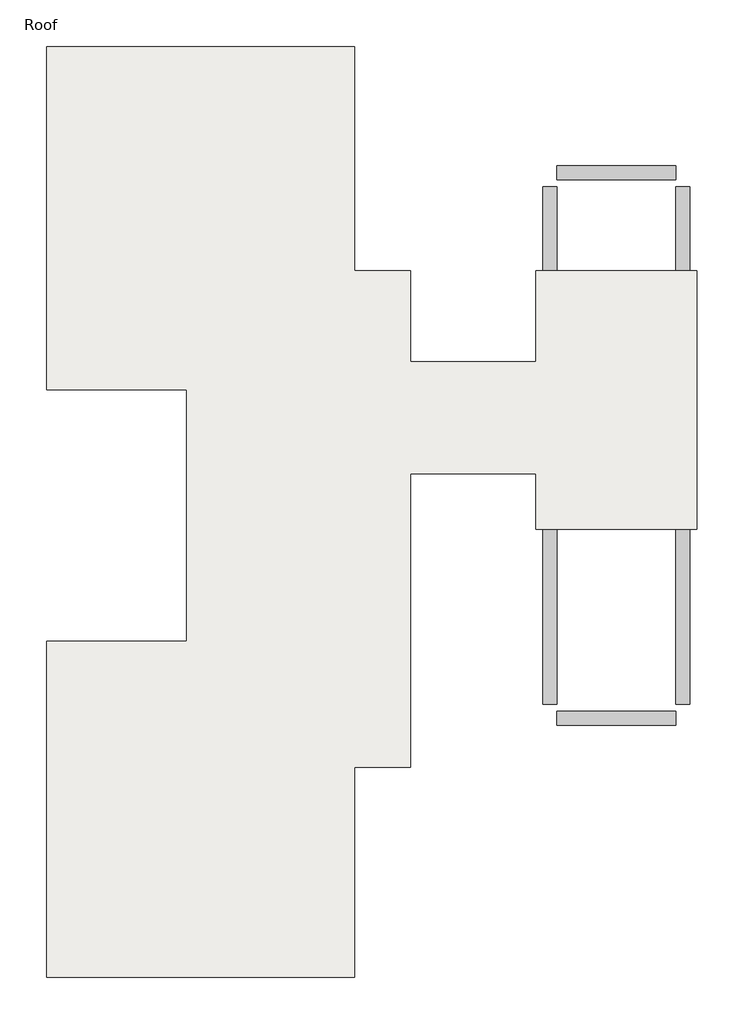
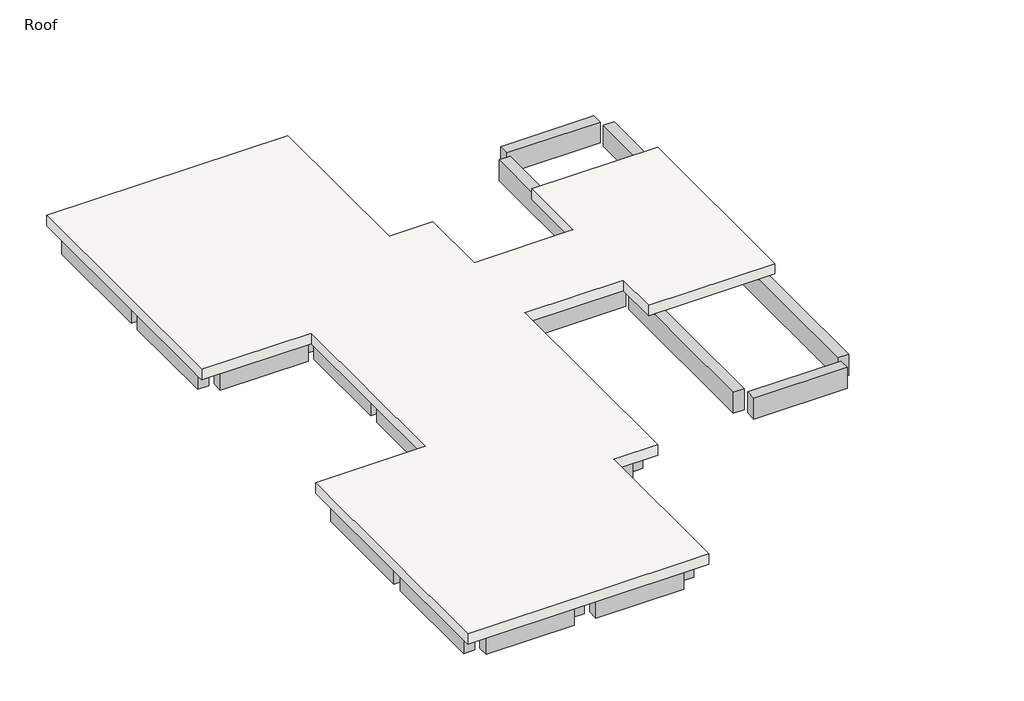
# One storey: 45 beams, 1 slab.
"""IFC4 building model written with IfcOpenShell, lengths in millimetres."""

from ifc_helpers import new_model, si_unit, frame, origin, place, context, project, spatial, polyline, outline, extrude, faceted_brep, element, save

model = new_model("IFC4")

# Units and contexts
model_context = context("Model", 3, world=origin())
ifc_project = project(units=[si_unit("LENGTHUNIT", "METRE", prefix="MILLI")], contexts=[model_context])

# Site, building, storey
site = spatial("IfcSite", under=ifc_project)
building = spatial("IfcBuilding", under=site)
storey = spatial("IfcBuildingStorey", under=building, Name="Roof", Elevation=7620.0)

# Beams
placement = place(None, origin())
element("IfcBeam", 1, ObjectType="Concrete-Rectangular Beam : 12 x 24", at=placement, inside=storey, context=model_context, shape_type="SweptSolid", body=[
    extrude(outline(polyline([(-12919.1663981, 10274.1487848), (-12919.1663981, 9969.3487848), (-15357.5663981, 9969.3487848), (-15357.5663981, 10274.1487848), (-12919.1663981, 10274.1487848)])), frame((0.0, 0.0, 6705.6), z_axis=(0.0, 0.0, 1.0), x_axis=(1.0, 0.0, 0.0)), (0.0, 0.0, 1.0), 609.6),
])
element("IfcBeam", 2, ObjectType="Concrete-Rectangular Beam : 12 x 24", at=placement, inside=storey, context=model_context, shape_type="SweptSolid", body=[
    extrude(outline(polyline([(-9871.1663981, 10274.1487848), (-9871.1663981, 9969.3487848), (-12309.5663981, 9969.3487848), (-12309.5663981, 10274.1487848), (-9871.1663981, 10274.1487848)])), frame((0.0, 0.0, 6705.6), z_axis=(0.0, 0.0, 1.0), x_axis=(1.0, 0.0, 0.0)), (0.0, 0.0, 1.0), 609.6),
])
element("IfcBeam", 3, ObjectType="Concrete-Rectangular Beam : 12 x 24", at=placement, inside=storey, context=model_context, shape_type="SweptSolid", body=[
    extrude(outline(polyline([(-15509.9663981, 6616.5487848), (-15814.7663981, 6616.5487848), (-15814.7663981, 9969.3487848), (-15509.9663981, 9969.3487848), (-15509.9663981, 6616.5487848)])), frame((0.0, 0.0, 6705.6), z_axis=(0.0, 0.0, 1.0), x_axis=(1.0, 0.0, 0.0)), (0.0, 0.0, 1.0), 609.6),
])
element("IfcBeam", 4, ObjectType="Concrete-Rectangular Beam : 12 x 24", at=placement, inside=storey, context=model_context, shape_type="SweptSolid", body=[
    extrude(outline(polyline([(-15509.9663981, 3416.1487848), (-15814.7663981, 3416.1487848), (-15814.7663981, 6311.7487848), (-15509.9663981, 6311.7487848), (-15509.9663981, 3416.1487848)])), frame((0.0, 0.0, 6705.6), z_axis=(0.0, 0.0, 1.0), x_axis=(1.0, 0.0, 0.0)), (0.0, 0.0, 1.0), 609.6),
])
element("IfcBeam", 5, ObjectType="Concrete-Rectangular Beam : 12 x 24", at=placement, inside=storey, context=model_context, shape_type="SweptSolid", body=[
    extrude(outline(polyline([(-9413.9663981, 6616.5487848), (-9718.7663981, 6616.5487848), (-9718.7663981, 9969.3487848), (-9413.9663981, 9969.3487848), (-9413.9663981, 6616.5487848)])), frame((0.0, 0.0, 6705.6), z_axis=(0.0, 0.0, 1.0), x_axis=(1.0, 0.0, 0.0)), (0.0, 0.0, 1.0), 609.6),
])
element("IfcBeam", 6, ObjectType="Concrete-Rectangular Beam : 12 x 24", at=placement, inside=storey, context=model_context, shape_type="SweptSolid", body=[
    extrude(outline(polyline([(-12461.9663981, 6616.5487848), (-12766.7663981, 6616.5487848), (-12766.7663981, 9969.3487848), (-12461.9663981, 9969.3487848), (-12461.9663981, 6616.5487848)])), frame((0.0, 0.0, 6705.6), z_axis=(0.0, 0.0, 1.0), x_axis=(1.0, 0.0, 0.0)), (0.0, 0.0, 1.0), 609.6),
])
element("IfcBeam", 7, ObjectType="Concrete-Rectangular Beam : 12 x 24", at=placement, inside=storey, context=model_context, shape_type="SweptSolid", body=[
    extrude(outline(polyline([(-12919.1663981, 6616.5487848), (-12919.1663981, 6311.7487848), (-15357.5663981, 6311.7487848), (-15357.5663981, 6616.5487848), (-12919.1663981, 6616.5487848)])), frame((0.0, 0.0, 6705.6), z_axis=(0.0, 0.0, 1.0), x_axis=(1.0, 0.0, 0.0)), (0.0, 0.0, 1.0), 609.6),
])
element("IfcBeam", 8, ObjectType="Concrete-Rectangular Beam : 12 x 24", at=placement, inside=storey, context=model_context, shape_type="SweptSolid", body=[
    extrude(outline(polyline([(-9871.1663981, 6616.5487848), (-9871.1663981, 6311.7487848), (-12309.5663981, 6311.7487848), (-12309.5663981, 6616.5487848), (-9871.1663981, 6616.5487848)])), frame((0.0, 0.0, 6705.6), z_axis=(0.0, 0.0, 1.0), x_axis=(1.0, 0.0, 0.0)), (0.0, 0.0, 1.0), 609.6),
])
element("IfcBeam", 9, ObjectType="Concrete-Rectangular Beam : 12 x 24", at=placement, inside=storey, context=model_context, shape_type="SweptSolid", body=[
    extrude(outline(polyline([(-12919.1663981, 3416.1487848), (-12919.1663981, 3111.3487848), (-15357.5663981, 3111.3487848), (-15357.5663981, 3416.1487848), (-12919.1663981, 3416.1487848)])), frame((0.0, 0.0, 6705.6), z_axis=(0.0, 0.0, 1.0), x_axis=(1.0, 0.0, 0.0)), (0.0, 0.0, 1.0), 609.6),
])
element("IfcBeam", 10, ObjectType="Concrete-Rectangular Beam : 12 x 24", at=placement, inside=storey, context=model_context, shape_type="SweptSolid", body=[
    extrude(outline(polyline([(-8651.9663981, 3416.1487848), (-8651.9663981, 3111.3487848), (-12309.5663981, 3111.3487848), (-12309.5663981, 3416.1487848), (-8651.9663981, 3416.1487848)])), frame((0.0, 0.0, 6705.6), z_axis=(0.0, 0.0, 1.0), x_axis=(1.0, 0.0, 0.0)), (0.0, 0.0, 1.0), 609.6),
])
element("IfcBeam", 11, ObjectType="Concrete-Rectangular Beam : 12 x 24", at=placement, inside=storey, context=model_context, shape_type="Brep", body=[
    faceted_brep([(-8651.9663981, 5092.5487848, 7315.2), (-8651.9663981, 5397.3487848, 7315.2), (-9413.9663981, 5397.3487848, 7315.2), (-9718.7663981, 5397.3487848, 7315.2), (-9718.7663981, 5092.5487848, 7315.2), (-8651.9663981, 5397.3487848, 6705.6), (-9413.9663981, 5397.3487848, 6705.6), (-9718.7663981, 5397.3487848, 6705.6), (-8651.9663981, 5092.5487848, 6705.6), (-9718.7663981, 5092.5487848, 6705.6)], [[[0, 1, 2, 3, 4]], [[1, 5, 6, 7, 3, 2]], [[5, 8, 9, 7, 6]], [[8, 0, 4, 9]], [[0, 8, 5, 1]], [[4, 3, 7, 9]]]),
])
element("IfcBeam", 12, ObjectType="Concrete-Rectangular Beam : 12 x 24", at=placement, inside=storey, context=model_context, shape_type="SweptSolid", body=[
    extrude(outline(polyline([(-9718.7663981, 6311.7487848), (-9413.9663981, 6311.7487848), (-9413.9663981, 5397.3487848), (-9718.7663981, 5397.3487848), (-9718.7663981, 6311.7487848)])), frame((0.0, 0.0, 6705.6), z_axis=(0.0, 0.0, 1.0), x_axis=(1.0, 0.0, 0.0)), (0.0, 0.0, 1.0), 609.6),
])
element("IfcBeam", 13, ObjectType="Concrete-Rectangular Beam : 12 x 24", at=placement, inside=storey, context=model_context, shape_type="SweptSolid", body=[
    extrude(outline(polyline([(-8194.7663981, 3416.1487848), (-8499.5663981, 3416.1487848), (-8499.5663981, 5092.5487848), (-8194.7663981, 5092.5487848), (-8194.7663981, 3416.1487848)])), frame((0.0, 0.0, 6705.6), z_axis=(0.0, 0.0, 1.0), x_axis=(1.0, 0.0, 0.0)), (0.0, 0.0, 1.0), 609.6),
])
element("IfcBeam", 14, ObjectType="Concrete-Rectangular Beam : 12 x 24", at=placement, inside=storey, context=model_context, shape_type="SweptSolid", body=[
    extrude(outline(polyline([(-12461.9663981, 3416.1487848), (-12766.7663981, 3416.1487848), (-12766.7663981, 6311.7487848), (-12461.9663981, 6311.7487848), (-12461.9663981, 3416.1487848)])), frame((0.0, 0.0, 6705.6), z_axis=(0.0, 0.0, 1.0), x_axis=(1.0, 0.0, 0.0)), (0.0, 0.0, 1.0), 609.6),
])
element("IfcBeam", 15, ObjectType="Concrete-Rectangular Beam : 12 x 24", at=placement, inside=storey, context=model_context, shape_type="SweptSolid", body=[
    extrude(outline(polyline([(-8042.3663981, 3111.3487848), (-8042.3663981, 3416.1487848), (-5146.7663981, 3416.1487848), (-5146.7663981, 3111.3487848), (-8042.3663981, 3111.3487848)])), frame((0.0, 0.0, 6705.6), z_axis=(0.0, 0.0, 1.0), x_axis=(1.0, 0.0, 0.0)), (0.0, 0.0, 1.0), 609.6),
])
element("IfcBeam", 16, ObjectType="Concrete-Rectangular Beam : 12 x 24", at=placement, inside=storey, context=model_context, shape_type="Brep", body=[
    faceted_brep([(-8499.5663981, 368.1487848, 7315.2), (-8194.7663981, 368.1487848, 7315.2), (-8194.7663981, 1282.5487848, 7315.2), (-8194.7663981, 1587.3487848, 7315.2), (-8194.7663981, 3111.3487848, 7315.2), (-8499.5663981, 3111.3487848, 7315.2), (-8499.5663981, 368.1487848, 6705.6), (-8499.5663981, 3111.3487848, 6705.6), (-8194.7663981, 368.1487848, 6705.6), (-8194.7663981, 3111.3487848, 6705.6), (-8194.7663981, 1587.3487848, 6705.6), (-8194.7663981, 1282.5487848, 6705.6)], [[[0, 1, 2, 3, 4, 5]], [[6, 0, 5, 7]], [[8, 6, 7, 9, 10, 11]], [[1, 8, 11, 10, 9, 4, 3, 2]], [[4, 9, 7, 5]], [[1, 0, 6, 8]]]),
])
element("IfcBeam", 17, ObjectType="Concrete-Rectangular Beam : 12 x 24", at=placement, inside=storey, context=model_context, shape_type="SweptSolid", body=[
    extrude(outline(polyline([(-8194.7663981, -2679.8512152), (-8499.5663981, -2679.8512152), (-8499.5663981, 63.3487848), (-8194.7663981, 63.3487848), (-8194.7663981, -2679.8512152)])), frame((0.0, 0.0, 6705.6), z_axis=(0.0, 0.0, 1.0), x_axis=(1.0, 0.0, 0.0)), (0.0, 0.0, 1.0), 609.6),
])
element("IfcBeam", 18, ObjectType="Concrete-Rectangular Beam : 12 x 24", at=placement, inside=storey, context=model_context, shape_type="SweptSolid", body=[
    extrude(outline(polyline([(-8194.7663981, -4813.4512152), (-8499.5663981, -4813.4512152), (-8499.5663981, -2984.6512152), (-8194.7663981, -2984.6512152), (-8194.7663981, -4813.4512152)])), frame((0.0, 0.0, 6705.6), z_axis=(0.0, 0.0, 1.0), x_axis=(1.0, 0.0, 0.0)), (0.0, 0.0, 1.0), 609.6),
])
element("IfcBeam", 19, ObjectType="Concrete-Rectangular Beam : 12 x 24", at=placement, inside=storey, context=model_context, shape_type="SweptSolid", body=[
    extrude(outline(polyline([(-8194.7663981, 1282.5487848), (-8194.7663981, 1587.3487848), (-5146.7663981, 1587.3487848), (-5146.7663981, 1282.5487848), (-8194.7663981, 1282.5487848)])), frame((0.0, 0.0, 6705.6), z_axis=(0.0, 0.0, 1.0), x_axis=(1.0, 0.0, 0.0)), (0.0, 0.0, 1.0), 609.6),
])
element("IfcBeam", 20, ObjectType="Concrete-Rectangular Beam : 12 x 24", at=placement, inside=storey, context=model_context, shape_type="SweptSolid", body=[
    extrude(outline(polyline([(-12461.9663981, 368.1487848), (-12766.7663981, 368.1487848), (-12766.7663981, 3111.3487848), (-12461.9663981, 3111.3487848), (-12461.9663981, 368.1487848)])), frame((0.0, 0.0, 6705.6), z_axis=(0.0, 0.0, 1.0), x_axis=(1.0, 0.0, 0.0)), (0.0, 0.0, 1.0), 609.6),
])
element("IfcBeam", 21, ObjectType="Concrete-Rectangular Beam : 12 x 24", at=placement, inside=storey, context=model_context, shape_type="SweptSolid", body=[
    extrude(outline(polyline([(-12461.9663981, -2679.8512152), (-12766.7663981, -2679.8512152), (-12766.7663981, 63.3487848), (-12461.9663981, 63.3487848), (-12461.9663981, -2679.8512152)])), frame((0.0, 0.0, 6705.6), z_axis=(0.0, 0.0, 1.0), x_axis=(1.0, 0.0, 0.0)), (0.0, 0.0, 1.0), 609.6),
])
element("IfcBeam", 22, ObjectType="Concrete-Rectangular Beam : 12 x 24", at=placement, inside=storey, context=model_context, shape_type="SweptSolid", body=[
    extrude(outline(polyline([(-12919.1663981, -2679.8512152), (-12919.1663981, -2984.6512152), (-15357.5663981, -2984.6512152), (-15357.5663981, -2679.8512152), (-12919.1663981, -2679.8512152)])), frame((0.0, 0.0, 6705.6), z_axis=(0.0, 0.0, 1.0), x_axis=(1.0, 0.0, 0.0)), (0.0, 0.0, 1.0), 609.6),
])
element("IfcBeam", 23, ObjectType="Concrete-Rectangular Beam : 12 x 24", at=placement, inside=storey, context=model_context, shape_type="SweptSolid", body=[
    extrude(outline(polyline([(-8651.9663981, -2679.8512152), (-8651.9663981, -2984.6512152), (-12309.5663981, -2984.6512152), (-12309.5663981, -2679.8512152), (-8651.9663981, -2679.8512152)])), frame((0.0, 0.0, 6705.6), z_axis=(0.0, 0.0, 1.0), x_axis=(1.0, 0.0, 0.0)), (0.0, 0.0, 1.0), 609.6),
])
element("IfcBeam", 24, ObjectType="Concrete-Rectangular Beam : 12 x 24", at=placement, inside=storey, context=model_context, shape_type="SweptSolid", body=[
    extrude(outline(polyline([(-8651.9663981, 368.1487848), (-8651.9663981, 63.3487848), (-12309.5663981, 63.3487848), (-12309.5663981, 368.1487848), (-8651.9663981, 368.1487848)])), frame((0.0, 0.0, 6705.6), z_axis=(0.0, 0.0, 1.0), x_axis=(1.0, 0.0, 0.0)), (0.0, 0.0, 1.0), 609.6),
])
element("IfcBeam", 25, ObjectType="Concrete-Rectangular Beam : 12 x 24", at=placement, inside=storey, context=model_context, shape_type="SweptSolid", body=[
    extrude(outline(polyline([(-15509.9663981, -6032.6512152), (-15814.7663981, -6032.6512152), (-15814.7663981, -2984.6512152), (-15509.9663981, -2984.6512152), (-15509.9663981, -6032.6512152)])), frame((0.0, 0.0, 6705.6), z_axis=(0.0, 0.0, 1.0), x_axis=(1.0, 0.0, 0.0)), (0.0, 0.0, 1.0), 609.6),
])
element("IfcBeam", 26, ObjectType="Concrete-Rectangular Beam : 12 x 24", at=placement, inside=storey, context=model_context, shape_type="SweptSolid", body=[
    extrude(outline(polyline([(-12919.1663981, -6032.6512152), (-12919.1663981, -6337.4512152), (-15357.5663981, -6337.4512152), (-15357.5663981, -6032.6512152), (-12919.1663981, -6032.6512152)])), frame((0.0, 0.0, 6705.6), z_axis=(0.0, 0.0, 1.0), x_axis=(1.0, 0.0, 0.0)), (0.0, 0.0, 1.0), 609.6),
])
element("IfcBeam", 27, ObjectType="Concrete-Rectangular Beam : 12 x 24", at=placement, inside=storey, context=model_context, shape_type="SweptSolid", body=[
    extrude(outline(polyline([(-9871.1663981, -6032.6512152), (-9871.1663981, -6337.4512152), (-12309.5663981, -6337.4512152), (-12309.5663981, -6032.6512152), (-9871.1663981, -6032.6512152)])), frame((0.0, 0.0, 6705.6), z_axis=(0.0, 0.0, 1.0), x_axis=(1.0, 0.0, 0.0)), (0.0, 0.0, 1.0), 609.6),
])
element("IfcBeam", 28, ObjectType="Concrete-Rectangular Beam : 12 x 24", at=placement, inside=storey, context=model_context, shape_type="SweptSolid", body=[
    extrude(outline(polyline([(-12461.9663981, -6032.6512152), (-12766.7663981, -6032.6512152), (-12766.7663981, -2984.6512152), (-12461.9663981, -2984.6512152), (-12461.9663981, -6032.6512152)])), frame((0.0, 0.0, 6705.6), z_axis=(0.0, 0.0, 1.0), x_axis=(1.0, 0.0, 0.0)), (0.0, 0.0, 1.0), 609.6),
])
element("IfcBeam", 29, ObjectType="Concrete-Rectangular Beam : 12 x 24", at=placement, inside=storey, context=model_context, shape_type="SweptSolid", body=[
    extrude(outline(polyline([(-15509.9663981, -9385.4512152), (-15814.7663981, -9385.4512152), (-15814.7663981, -6337.4512152), (-15509.9663981, -6337.4512152), (-15509.9663981, -9385.4512152)])), frame((0.0, 0.0, 6705.6), z_axis=(0.0, 0.0, 1.0), x_axis=(1.0, 0.0, 0.0)), (0.0, 0.0, 1.0), 609.6),
])
element("IfcBeam", 30, ObjectType="Concrete-Rectangular Beam : 12 x 24", at=placement, inside=storey, context=model_context, shape_type="SweptSolid", body=[
    extrude(outline(polyline([(-12919.1663981, -9385.4512152), (-12919.1663981, -9690.2512152), (-15357.5663981, -9690.2512152), (-15357.5663981, -9385.4512152), (-12919.1663981, -9385.4512152)])), frame((0.0, 0.0, 6705.6), z_axis=(0.0, 0.0, 1.0), x_axis=(1.0, 0.0, 0.0)), (0.0, 0.0, 1.0), 609.6),
])
element("IfcBeam", 31, ObjectType="Concrete-Rectangular Beam : 12 x 24", at=placement, inside=storey, context=model_context, shape_type="SweptSolid", body=[
    extrude(outline(polyline([(-9871.1663981, -9385.4512152), (-9871.1663981, -9690.2512152), (-12309.5663981, -9690.2512152), (-12309.5663981, -9385.4512152), (-9871.1663981, -9385.4512152)])), frame((0.0, 0.0, 6705.6), z_axis=(0.0, 0.0, 1.0), x_axis=(1.0, 0.0, 0.0)), (0.0, 0.0, 1.0), 609.6),
])
element("IfcBeam", 32, ObjectType="Concrete-Rectangular Beam : 12 x 24", at=placement, inside=storey, context=model_context, shape_type="SweptSolid", body=[
    extrude(outline(polyline([(-12461.9663981, -9385.4512152), (-12766.7663981, -9385.4512152), (-12766.7663981, -6337.4512152), (-12461.9663981, -6337.4512152), (-12461.9663981, -9385.4512152)])), frame((0.0, 0.0, 6705.6), z_axis=(0.0, 0.0, 1.0), x_axis=(1.0, 0.0, 0.0)), (0.0, 0.0, 1.0), 609.6),
])
element("IfcBeam", 33, ObjectType="Concrete-Rectangular Beam : 12 x 24", at=placement, inside=storey, context=model_context, shape_type="SweptSolid", body=[
    extrude(outline(polyline([(-9413.9663981, -9385.4512152), (-9718.7663981, -9385.4512152), (-9718.7663981, -6337.4512152), (-9413.9663981, -6337.4512152), (-9413.9663981, -9385.4512152)])), frame((0.0, 0.0, 6705.6), z_axis=(0.0, 0.0, 1.0), x_axis=(1.0, 0.0, 0.0)), (0.0, 0.0, 1.0), 609.6),
])
element("IfcBeam", 34, ObjectType="Concrete-Rectangular Beam : 12 x 24", at=placement, inside=storey, context=model_context, shape_type="Brep", body=[
    faceted_brep([(-9718.7663981, -6032.6512152, 7315.2), (-9413.9663981, -6032.6512152, 7315.2), (-9413.9663981, -5118.2512152, 7315.2), (-9413.9663981, -4813.4512152, 7315.2), (-9718.7663981, -4813.4512152, 7315.2), (-9413.9663981, -6032.6512152, 6705.6), (-9413.9663981, -5118.2512152, 6705.6), (-9413.9663981, -4813.4512152, 6705.6), (-9718.7663981, -6032.6512152, 6705.6), (-9718.7663981, -4813.4512152, 6705.6)], [[[0, 1, 2, 3, 4]], [[1, 5, 6, 7, 3, 2]], [[5, 8, 9, 7, 6]], [[8, 0, 4, 9]], [[0, 8, 5, 1]], [[4, 3, 7, 9]]]),
])
element("IfcBeam", 35, ObjectType="Concrete-Rectangular Beam : 12 x 24", at=placement, inside=storey, context=model_context, shape_type="SweptSolid", body=[
    extrude(outline(polyline([(-8651.9663981, -4813.4512152), (-8651.9663981, -5118.2512152), (-9413.9663981, -5118.2512152), (-9413.9663981, -4813.4512152), (-8651.9663981, -4813.4512152)])), frame((0.0, 0.0, 6705.6), z_axis=(0.0, 0.0, 1.0), x_axis=(1.0, 0.0, 0.0)), (0.0, 0.0, 1.0), 609.6),
])
element("IfcBeam", 36, ObjectType="Concrete-Rectangular Beam : 12 x 24", at=placement, inside=storey, context=model_context, shape_type="SweptSolid", body=[
    extrude(outline(polyline([(-4841.9663981, 3111.3487848), (-4841.9663981, 3416.1487848), (-2251.1663981, 3416.1487848), (-2251.1663981, 3111.3487848), (-4841.9663981, 3111.3487848)])), frame((0.0, 0.0, 6705.6), z_axis=(0.0, 0.0, 1.0), x_axis=(1.0, 0.0, 0.0)), (0.0, 0.0, 1.0), 609.6),
])
element("IfcBeam", 37, ObjectType="Concrete-Rectangular Beam : 12 x 24", at=placement, inside=storey, context=model_context, shape_type="SweptSolid", body=[
    extrude(outline(polyline([(-4841.9663981, 1282.5487848), (-4841.9663981, 1587.3487848), (-2251.1663981, 1587.3487848), (-2251.1663981, 1282.5487848), (-4841.9663981, 1282.5487848)])), frame((0.0, 0.0, 6705.6), z_axis=(0.0, 0.0, 1.0), x_axis=(1.0, 0.0, 0.0)), (0.0, 0.0, 1.0), 609.6),
])
element("IfcBeam", 38, ObjectType="Concrete-Rectangular Beam : 12 x 24", at=placement, inside=storey, context=model_context, shape_type="SweptSolid", body=[
    extrude(outline(polyline([(-5146.7663981, 1130.1487848), (-4841.9663981, 1130.1487848), (-4841.9663981, -3899.0512152), (-5146.7663981, -3899.0512152), (-5146.7663981, 1130.1487848)])), frame((0.0, 0.0, 6705.6), z_axis=(0.0, 0.0, 1.0), x_axis=(1.0, 0.0, 0.0)), (0.0, 0.0, 1.0), 609.6),
])
element("IfcBeam", 39, ObjectType="Concrete-Rectangular Beam : 12 x 24", at=placement, inside=storey, context=model_context, shape_type="SweptSolid", body=[
    extrude(outline(polyline([(-5146.7663981, 2958.9487848), (-4841.9663981, 2958.9487848), (-4841.9663981, 1739.7487848), (-5146.7663981, 1739.7487848), (-5146.7663981, 2958.9487848)])), frame((0.0, 0.0, 6705.6), z_axis=(0.0, 0.0, 1.0), x_axis=(1.0, 0.0, 0.0)), (0.0, 0.0, 1.0), 609.6),
])
element("IfcBeam", 40, ObjectType="Concrete-Rectangular Beam : 12 x 24", at=placement, inside=storey, context=model_context, shape_type="SweptSolid", body=[
    extrude(outline(polyline([(-5146.7663981, 7378.5487848), (-4841.9663981, 7378.5487848), (-4841.9663981, 3568.5487848), (-5146.7663981, 3568.5487848), (-5146.7663981, 7378.5487848)])), frame((0.0, 0.0, 6705.6), z_axis=(0.0, 0.0, 1.0), x_axis=(1.0, 0.0, 0.0)), (0.0, 0.0, 1.0), 609.6),
])
element("IfcBeam", 41, ObjectType="Concrete-Rectangular Beam : 12 x 24", at=placement, inside=storey, context=model_context, shape_type="SweptSolid", body=[
    extrude(outline(polyline([(-2251.1663981, 7835.7487848), (-2251.1663981, 7530.9487848), (-4841.9663981, 7530.9487848), (-4841.9663981, 7835.7487848), (-2251.1663981, 7835.7487848)])), frame((0.0, 0.0, 6705.6), z_axis=(0.0, 0.0, 1.0), x_axis=(1.0, 0.0, 0.0)), (0.0, 0.0, 1.0), 609.6),
])
element("IfcBeam", 42, ObjectType="Concrete-Rectangular Beam : 12 x 24", at=placement, inside=storey, context=model_context, shape_type="SweptSolid", body=[
    extrude(outline(polyline([(-1946.3663981, 3568.5487848), (-2251.1663981, 3568.5487848), (-2251.1663981, 7378.5487848), (-1946.3663981, 7378.5487848), (-1946.3663981, 3568.5487848)])), frame((0.0, 0.0, 6705.6), z_axis=(0.0, 0.0, 1.0), x_axis=(1.0, 0.0, 0.0)), (0.0, 0.0, 1.0), 609.6),
])
element("IfcBeam", 43, ObjectType="Concrete-Rectangular Beam : 12 x 24", at=placement, inside=storey, context=model_context, shape_type="SweptSolid", body=[
    extrude(outline(polyline([(-1946.3663981, 1739.7487848), (-2251.1663981, 1739.7487848), (-2251.1663981, 2958.9487848), (-1946.3663981, 2958.9487848), (-1946.3663981, 1739.7487848)])), frame((0.0, 0.0, 6705.6), z_axis=(0.0, 0.0, 1.0), x_axis=(1.0, 0.0, 0.0)), (0.0, 0.0, 1.0), 609.6),
])
element("IfcBeam", 44, ObjectType="Concrete-Rectangular Beam : 12 x 24", at=placement, inside=storey, context=model_context, shape_type="SweptSolid", body=[
    extrude(outline(polyline([(-1946.3663981, -3899.0512152), (-2251.1663981, -3899.0512152), (-2251.1663981, 1130.1487848), (-1946.3663981, 1130.1487848), (-1946.3663981, -3899.0512152)])), frame((0.0, 0.0, 6705.6), z_axis=(0.0, 0.0, 1.0), x_axis=(1.0, 0.0, 0.0)), (0.0, 0.0, 1.0), 609.6),
])
element("IfcBeam", 45, ObjectType="Concrete-Rectangular Beam : 12 x 24", at=placement, inside=storey, context=model_context, shape_type="SweptSolid", body=[
    extrude(outline(polyline([(-2251.1663981, -4051.4512152), (-2251.1663981, -4356.2512152), (-4841.9663981, -4356.2512152), (-4841.9663981, -4051.4512152), (-2251.1663981, -4051.4512152)])), frame((0.0, 0.0, 6705.6), z_axis=(0.0, 0.0, 1.0), x_axis=(1.0, 0.0, 0.0)), (0.0, 0.0, 1.0), 609.6),
])

# Slab
element("IfcSlab", 46, ObjectType="Generic - 12\"", at=placement, inside=storey, context=model_context, shape_type="Brep", body=[
    faceted_brep([(-9261.5663981, 10426.5487848, 7315.2), (-9261.5663981, 10274.1487848, 7315.2), (-9261.5663981, 9969.3487848, 7315.2), (-9261.5663981, 6616.5487848, 7315.2), (-9261.5663981, 6311.7487848, 7315.2), (-9261.5663981, 5549.7487848, 7315.2), (-8042.3663981, 5549.7487848, 7315.2), (-8042.3663981, 5397.3487848, 7315.2), (-8042.3663981, 5092.5487848, 7315.2), (-8042.3663981, 3568.5487848, 7315.2), (-5299.1663981, 3568.5487848, 7315.2), (-5299.1663981, 5549.7487848, 7315.2), (-1793.9663981, 5549.7487848, 7315.2), (-1793.9663981, -89.0512152, 7315.2), (-5299.1663981, -89.0512152, 7315.2), (-5299.1663981, 1130.1487848, 7315.2), (-8042.3663981, 1130.1487848, 7315.2), (-8042.3663981, 368.1487848, 7315.2), (-8042.3663981, 63.3487848, 7315.2), (-8042.3663981, -2679.8512152, 7315.2), (-8042.3663981, -2984.6512152, 7315.2), (-8042.3663981, -4813.4512152, 7315.2), (-8042.3663981, -5118.2512152, 7315.2), (-8042.3663981, -5270.6512152, 7315.2), (-9261.5663981, -5270.6512152, 7315.2), (-9261.5663981, -6032.6512152, 7315.2), (-9261.5663981, -6337.4512152, 7315.2), (-9261.5663981, -9385.4512152, 7315.2), (-9261.5663981, -9690.2512152, 7315.2), (-9261.5663981, -9842.6512152, 7315.2), (-15967.1663981, -9842.6512152, 7315.2), (-15967.1663981, -9690.2512152, 7315.2), (-15967.1663981, -9385.4512152, 7315.2), (-15967.1663981, -6337.4512152, 7315.2), (-15967.1663981, -6032.6512152, 7315.2), (-15967.1663981, -2984.6512152, 7315.2), (-15967.1663981, -2679.8512152, 7315.2), (-15967.1663981, -2527.4512152, 7315.2), (-12919.1663981, -2527.4512152, 7315.2), (-12919.1663981, 63.3487848, 7315.2), (-12919.1663981, 368.1487848, 7315.2), (-12919.1663981, 2958.9487848, 7315.2), (-15967.1663981, 2958.9487848, 7315.2), (-15967.1663981, 3111.3487848, 7315.2), (-15967.1663981, 3416.1487848, 7315.2), (-15967.1663981, 6311.7487848, 7315.2), (-15967.1663981, 6616.5487848, 7315.2), (-15967.1663981, 9969.3487848, 7315.2), (-15967.1663981, 10274.1487848, 7315.2), (-15967.1663981, 10426.5487848, 7315.2), (-9261.5663981, 10426.5487848, 7620.0), (-15967.1663981, 10426.5487848, 7620.0), (-15967.1663981, 2958.9487848, 7620.0), (-12919.1663981, 2958.9487848, 7620.0), (-12919.1663981, -2527.4512152, 7620.0), (-15967.1663981, -2527.4512152, 7620.0), (-15967.1663981, -9842.6512152, 7620.0), (-9261.5663981, -9842.6512152, 7620.0), (-9261.5663981, -5270.6512152, 7620.0), (-8042.3663981, -5270.6512152, 7620.0), (-8042.3663981, 1130.1487848, 7620.0), (-5299.1663981, 1130.1487848, 7620.0), (-5299.1663981, -89.0512152, 7620.0), (-1793.9663981, -89.0512152, 7620.0), (-1793.9663981, 5549.7487848, 7620.0), (-5299.1663981, 5549.7487848, 7620.0), (-5299.1663981, 3568.5487848, 7620.0), (-8042.3663981, 3568.5487848, 7620.0), (-8042.3663981, 5549.7487848, 7620.0), (-9261.5663981, 5549.7487848, 7620.0)], [[[0, 1, 2, 3, 4, 5, 6, 7, 8, 9, 10, 11, 12, 13, 14, 15, 16, 17, 18, 19, 20, 21, 22, 23, 24, 25, 26, 27, 28, 29, 30, 31, 32, 33, 34, 35, 36, 37, 38, 39, 40, 41, 42, 43, 44, 45, 46, 47, 48, 49]], [[50, 51, 52, 53, 54, 55, 56, 57, 58, 59, 60, 61, 62, 63, 64, 65, 66, 67, 68, 69]], [[5, 4, 3, 2, 1, 0, 50, 69]], [[6, 5, 69, 68]], [[9, 8, 7, 6, 68, 67]], [[10, 9, 67, 66]], [[11, 10, 66, 65]], [[12, 11, 65, 64]], [[13, 12, 64, 63]], [[14, 13, 63, 62]], [[15, 14, 62, 61]], [[16, 15, 61, 60]], [[23, 22, 21, 20, 19, 18, 17, 16, 60, 59]], [[24, 23, 59, 58]], [[29, 28, 27, 26, 25, 24, 58, 57]], [[30, 29, 57, 56]], [[37, 36, 35, 34, 33, 32, 31, 30, 56, 55]], [[38, 37, 55, 54]], [[41, 40, 39, 38, 54, 53]], [[42, 41, 53, 52]], [[49, 48, 47, 46, 45, 44, 43, 42, 52, 51]], [[0, 49, 51, 50]]]),
])

save(model, "model.ifc")
